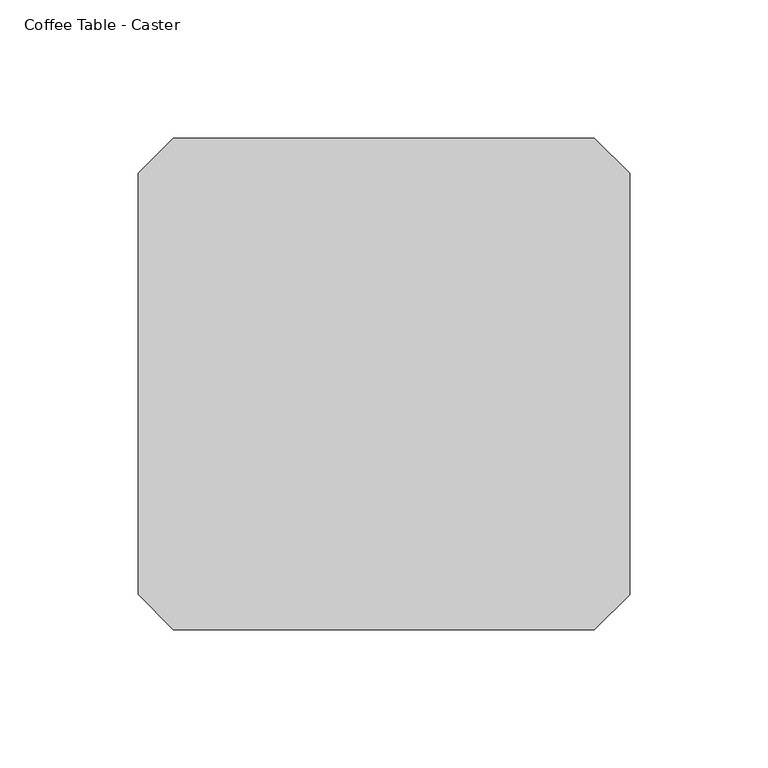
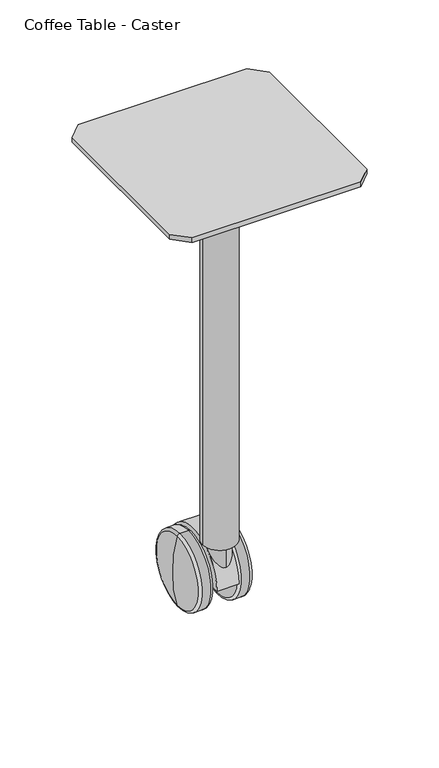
"""IFC4 building model written with IfcOpenShell, lengths in millimetres: furniture geometry, Steelcase - Groupwork - Table Leg - Coffee Table : Coffee Table - Caster."""

from ifc_helpers import new_model, si_unit, point, frame, frame_2d, origin, place, context, project, spatial, polyline, circle_curve, ellipse_curve, trimmed, segment, composite_curve, outline, extrude, source, transform, mapped, element, save
from ifc_brep_helpers import plane_surface, cylinder_surface, revolved_surface, advanced_brep


def coffee_table_caster_74038b93(model_context):
    return source(origin(), model_context, "Body", "SolidModel", [
        extrude(outline(polyline([(88.8999907, 92.0423469), (88.8999907, -60.4556951), (76.2000028, -73.0576592), (-76.2000028, -73.0576592), (-88.9000032, -60.3576588), (-88.9000032, 92.0423469), (-76.2000028, 104.7423348), (76.2000028, 104.7423348), (88.8999907, 92.0423469)])), frame((0.0, 0.0, 434.9139814), z_axis=(0.0, 0.0, 1.0), x_axis=(1.0, 0.0, 0.0)), (0.0, 0.0, 1.0), 4.5060186),
        advanced_brep(
        [(-11.4827204, 39.9411002, 2.2405885), (-11.4827204, 39.9411002, 34.996282), (-11.4827204, 39.9411002, 67.7519755), (-13.6490633, 39.9411002, 0.0742455), (-13.6490633, 39.9411002, 69.9183184), (-21.5027885, 39.9411002, 0.0742455), (-21.5027885, 39.9411002, 69.9183184), (-24.0371277, 39.9411002, 1.9932216), (-24.0371277, 39.9411002, 67.9993423), (-28.027544, 39.9411002, 34.996282)],
        [
            (0, 1),
            (1, 2),
            (2, 0, circle_curve(frame((-11.4827204, 39.9411002, 34.996282), z_axis=(1.0, 0.0, 0.0), x_axis=(0.0, 0.0, 1.0)), 32.7556935)),
            (0, 2, circle_curve(frame((-11.4827204, 39.9411002, 34.996282), z_axis=(1.0, 0.0, 0.0), x_axis=(0.0, 0.0, 1.0)), 32.7556935)),
            (3, 0, circle_curve(frame((-13.6490633, 39.9411002, 2.2405885), z_axis=(0.0, -1.0, 0.0), x_axis=(1.0, 0.0, 0.0)), 2.1663429)),
            (2, 4, circle_curve(frame((-13.6490633, 39.9411002, 67.7519755), z_axis=(0.0, -1.0, 0.0), x_axis=(1.0, 0.0, 0.0)), 2.1663429)),
            (4, 3, circle_curve(frame((-13.6490633, 39.9411002, 34.996282), z_axis=(1.0, 0.0, 0.0), x_axis=(0.0, 0.0, 1.0)), 34.9220364)),
            (3, 4, circle_curve(frame((-13.6490633, 39.9411002, 34.996282), z_axis=(1.0, 0.0, 0.0), x_axis=(0.0, 0.0, 1.0)), 34.9220364)),
            (5, 3),
            (4, 6),
            (6, 5, circle_curve(frame((-21.5027885, 39.9411002, 34.996282), z_axis=(1.0, 0.0, 0.0), x_axis=(0.0, 0.0, 1.0)), 34.9220364)),
            (5, 6, circle_curve(frame((-21.5027885, 39.9411002, 34.996282), z_axis=(1.0, 0.0, 0.0), x_axis=(0.0, 0.0, 1.0)), 34.9220364)),
            (7, 5, circle_curve(frame((-21.5027885, 39.9411002, 2.7072499), z_axis=(0.0, -1.0, 0.0), x_axis=(1.0, 0.0, 0.0)), 2.6330044)),
            (6, 8, circle_curve(frame((-21.5027885, 39.9411002, 67.285314), z_axis=(0.0, -1.0, 0.0), x_axis=(1.0, 0.0, 0.0)), 2.6330044)),
            (8, 7, circle_curve(frame((-24.0371277, 39.9411002, 34.996282), z_axis=(1.0, 0.0, 0.0), x_axis=(0.0, 0.0, 1.0)), 33.0030604)),
            (7, 8, circle_curve(frame((-24.0371277, 39.9411002, 34.996282), z_axis=(1.0, 0.0, 0.0), x_axis=(0.0, 0.0, 1.0)), 33.0030604)),
            (9, 7, circle_curve(frame((80.0645768, 39.9411002, 31.3229818), z_axis=(0.0, -1.0, 0.0), x_axis=(1.0, 0.0, 0.0)), 108.1545178)),
            (8, 9, circle_curve(frame((80.0645768, 39.9411002, 38.6695822), z_axis=(0.0, -1.0, 0.0), x_axis=(1.0, 0.0, 0.0)), 108.1545178)),
        ],
        [
            plane_surface(frame((-11.4827204, 39.9411002, 34.996282), z_axis=(1.0, 0.0, 0.0), x_axis=(0.0, 0.0, 1.0))),
            revolved_surface(trimmed(ellipse_curve(frame((-13.6490633, 39.9411002, 67.7519755), z_axis=(0.0, -1.0, 0.0), x_axis=(1.0, 0.0, 0.0)), 2.1663429, 2.1663429), [point((-11.4827204, 39.9411002, 67.7519755))], [point((-13.6490633, 39.9411002, 69.9183184))], True, "CARTESIAN"), (-26.2760059, 39.9411002, 34.996282), (-1.0, 0.0, 0.0)),
            cylinder_surface(frame((-26.2760059, 39.9411002, 34.996282), z_axis=(-1.0, 0.0, 0.0), x_axis=(0.0, 0.0, 1.0)), 34.9220364),
            revolved_surface(trimmed(ellipse_curve(frame((-21.5027885, 39.9411002, 67.285314), z_axis=(0.0, -1.0, 0.0), x_axis=(1.0, 0.0, 0.0)), 2.6330044, 2.6330044), [point((-21.5027885, 39.9411002, 69.9183184))], [point((-24.0371277, 39.9411002, 67.9993423))], True, "CARTESIAN"), (-26.2760059, 39.9411002, 34.996282), (-1.0, 0.0, 0.0)),
            revolved_surface(trimmed(ellipse_curve(frame((80.0645768, 39.9411002, 38.6695822), z_axis=(0.0, -1.0, 0.0), x_axis=(1.0, 0.0, 0.0)), 108.1545178, 108.1545178), [point((-24.0371277, 39.9411002, 67.9993423))], [point((-28.027544, 39.9411002, 34.996282))], True, "CARTESIAN"), (-26.2760059, 39.9411002, 34.996282), (-1.0, 0.0, 0.0)),
        ],
        [
            (0, [[1, 2, 3]]),
            (0, [[-2, -1, 4]]),
            (1, [[5, -3, 6, 7]]),
            (1, [[-6, -4, -5, 8]]),
            (2, [[9, -7, 10, 11]]),
            (2, [[-10, -8, -9, 12]]),
            (3, [[13, -11, 14, 15]]),
            (3, [[-14, -12, -13, 16]]),
            (4, [[17, -15, 18]]),
            (4, [[-18, -16, -17]]),
        ],
    ),
        advanced_brep(
        [(24.0371277, 39.9411002, 1.9932216), (28.027544, 39.9411002, 34.996282), (24.0371277, 39.9411002, 67.9993423), (21.5027885, 39.9411002, 0.0742455), (21.5027885, 39.9411002, 69.9183184), (13.6490633, 39.9411002, 0.0742455), (13.6490633, 39.9411002, 69.9183184), (11.4827204, 39.9411002, 2.2405885), (11.4827204, 39.9411002, 67.7519755), (11.4827204, 39.9411002, 34.996282)],
        [
            (0, 1, circle_curve(frame((-80.0645768, 39.9411002, 31.3229818), z_axis=(0.0, -1.0, 0.0), x_axis=(-1.0, 0.0, 0.0)), 108.1545178)),
            (1, 2, circle_curve(frame((-80.0645768, 39.9411002, 38.6695822), z_axis=(0.0, -1.0, 0.0), x_axis=(-1.0, 0.0, 0.0)), 108.1545178)),
            (2, 0, circle_curve(frame((24.0371277, 39.9411002, 34.996282), z_axis=(1.0, 0.0, 0.0), x_axis=(0.0, 0.0, 1.0)), 33.0030604)),
            (0, 2, circle_curve(frame((24.0371277, 39.9411002, 34.996282), z_axis=(1.0, 0.0, 0.0), x_axis=(0.0, 0.0, 1.0)), 33.0030604)),
            (3, 0, circle_curve(frame((21.5027885, 39.9411002, 2.7072499), z_axis=(0.0, -1.0, 0.0), x_axis=(-1.0, 0.0, 0.0)), 2.6330044)),
            (2, 4, circle_curve(frame((21.5027885, 39.9411002, 67.285314), z_axis=(0.0, -1.0, 0.0), x_axis=(-1.0, 0.0, 0.0)), 2.6330044)),
            (4, 3, circle_curve(frame((21.5027885, 39.9411002, 34.996282), z_axis=(1.0, 0.0, 0.0), x_axis=(0.0, 0.0, 1.0)), 34.9220364)),
            (3, 4, circle_curve(frame((21.5027885, 39.9411002, 34.996282), z_axis=(1.0, 0.0, 0.0), x_axis=(0.0, 0.0, 1.0)), 34.9220364)),
            (5, 3),
            (4, 6),
            (6, 5, circle_curve(frame((13.6490633, 39.9411002, 34.996282), z_axis=(1.0, 0.0, 0.0), x_axis=(0.0, 0.0, 1.0)), 34.9220364)),
            (5, 6, circle_curve(frame((13.6490633, 39.9411002, 34.996282), z_axis=(1.0, 0.0, 0.0), x_axis=(0.0, 0.0, 1.0)), 34.9220364)),
            (7, 5, circle_curve(frame((13.6490633, 39.9411002, 2.2405885), z_axis=(0.0, -1.0, 0.0), x_axis=(-1.0, 0.0, 0.0)), 2.1663429)),
            (6, 8, circle_curve(frame((13.6490633, 39.9411002, 67.7519755), z_axis=(0.0, -1.0, 0.0), x_axis=(-1.0, 0.0, 0.0)), 2.1663429)),
            (8, 7, circle_curve(frame((11.4827204, 39.9411002, 34.996282), z_axis=(1.0, 0.0, 0.0), x_axis=(0.0, 0.0, 1.0)), 32.7556935)),
            (7, 8, circle_curve(frame((11.4827204, 39.9411002, 34.996282), z_axis=(1.0, 0.0, 0.0), x_axis=(0.0, 0.0, 1.0)), 32.7556935)),
            (9, 7),
            (8, 9),
        ],
        [
            revolved_surface(trimmed(ellipse_curve(frame((-80.0645768, 39.9411002, 38.6695822), z_axis=(0.0, -1.0, 0.0), x_axis=(-1.0, 0.0, 0.0)), 108.1545178, 108.1545178), [point((28.027544, 39.9411002, 34.996282))], [point((24.0371277, 39.9411002, 67.9993423))], True, "CARTESIAN"), (-26.2760059, 39.9411002, 34.996282), (-1.0, 0.0, 0.0)),
            revolved_surface(trimmed(ellipse_curve(frame((21.5027885, 39.9411002, 67.285314), z_axis=(0.0, -1.0, 0.0), x_axis=(-1.0, 0.0, 0.0)), 2.6330044, 2.6330044), [point((24.0371277, 39.9411002, 67.9993423))], [point((21.5027885, 39.9411002, 69.9183184))], True, "CARTESIAN"), (-26.2760059, 39.9411002, 34.996282), (-1.0, 0.0, 0.0)),
            cylinder_surface(frame((-26.2760059, 39.9411002, 34.996282), z_axis=(-1.0, 0.0, 0.0), x_axis=(0.0, 0.0, 1.0)), 34.9220364),
            revolved_surface(trimmed(ellipse_curve(frame((13.6490633, 39.9411002, 67.7519755), z_axis=(0.0, -1.0, 0.0), x_axis=(-1.0, 0.0, 0.0)), 2.1663429, 2.1663429), [point((13.6490633, 39.9411002, 69.9183184))], [point((11.4827204, 39.9411002, 67.7519755))], True, "CARTESIAN"), (-26.2760059, 39.9411002, 34.996282), (-1.0, 0.0, 0.0)),
            plane_surface(frame((11.4827204, 39.9411002, 34.996282), z_axis=(-1.0, 0.0, 0.0), x_axis=(0.0, 0.0, 1.0))),
        ],
        [
            (0, [[1, 2, 3]]),
            (0, [[-2, -1, 4]]),
            (1, [[5, -3, 6, 7]]),
            (1, [[-6, -4, -5, 8]]),
            (2, [[9, -7, 10, 11]]),
            (2, [[-10, -8, -9, 12]]),
            (3, [[13, -11, 14, 15]]),
            (3, [[-14, -12, -13, 16]]),
            (4, [[17, -15, 18]]),
            (4, [[-18, -16, -17]]),
        ],
    ),
        extrude(outline(composite_curve([segment(polyline([(77.3811, 33.5852125), (2.3749, 33.5852125)]), True, "CONTINUOUS"), segment(trimmed(circle_curve(frame_2d((39.878, 33.5852125)), 37.5031), [point((2.3749, 33.5852125))], [point((77.3811, 33.5852125))], False, "CARTESIAN"), True, "CONTINUOUS")], self_intersect=False)), frame((-9.8317204, 0.0, 0.0), z_axis=(1.0, 0.0, 0.0), x_axis=(0.0, 1.0, 0.0)), (0.0, 0.0, 1.0), 19.685),
        advanced_brep(
        [(0.0, 25.7219599, 42.7546125), (0.0, 15.875, 42.7546125), (0.0, 6.0280401, 42.7546125), (0.0, 25.7219599, 93.5546125), (0.0, 6.0280401, 93.5546125), (0.0, 15.875, 93.5546125)],
        [
            (0, 1),
            (1, 2),
            (2, 0, circle_curve(frame((0.0, 15.875, 42.7546125), z_axis=(0.0, 0.0, -1.0), x_axis=(0.0, -1.0, 0.0)), 9.8469599)),
            (0, 2, circle_curve(frame((0.0, 15.875, 42.7546125), z_axis=(0.0, 0.0, -1.0), x_axis=(0.0, -1.0, 0.0)), 9.8469599)),
            (3, 0),
            (2, 4),
            (4, 3, circle_curve(frame((0.0, 15.875, 93.5546125), z_axis=(0.0, 0.0, -1.0), x_axis=(0.0, -1.0, 0.0)), 9.8469599)),
            (3, 4, circle_curve(frame((0.0, 15.875, 93.5546125), z_axis=(0.0, 0.0, -1.0), x_axis=(0.0, -1.0, 0.0)), 9.8469599)),
            (5, 3),
            (4, 5),
        ],
        [
            plane_surface(frame((0.0, 15.875, 42.7546125), z_axis=(0.0, 0.0, -1.0), x_axis=(0.0, -1.0, 0.0))),
            cylinder_surface(frame((0.0, 15.875, 92.8785885), z_axis=(0.0, 0.0, 1.0), x_axis=(0.0, -1.0, 0.0)), 9.8469599),
            plane_surface(frame((0.0, 15.875, 93.5546125), z_axis=(0.0, 0.0, 1.0), x_axis=(0.0, -1.0, 0.0))),
        ],
        [
            (0, [[1, 2, 3]]),
            (0, [[-2, -1, 4]]),
            (1, [[5, -3, 6, 7]]),
            (1, [[-6, -4, -5, 8]]),
            (2, [[9, -7, 10]]),
            (2, [[-10, -8, -9]]),
        ],
    ),
        extrude(outline(composite_curve([segment(trimmed(circle_curve(frame_2d((0.0, 15.7933259)), 15.24), [point((-15.24, 15.7933259))], [point((15.24, 15.7933259))], False, "CARTESIAN"), True, "CONTINUOUS"), segment(trimmed(circle_curve(frame_2d((0.0, 15.7933259)), 15.24), [point((15.24, 15.7933259))], [point((-15.24, 15.7933259))], False, "CARTESIAN"), True, "CONTINUOUS")], self_intersect=False), holes=[composite_curve([segment(trimmed(circle_curve(frame_2d((0.0, 15.7933259)), 13.7134307), [point((-13.7134307, 15.7933259))], [point((13.7134307, 15.7933259))], True, "CARTESIAN"), True, "CONTINUOUS"), segment(trimmed(circle_curve(frame_2d((0.0, 15.7933259)), 13.7134307), [point((13.7134307, 15.7933259))], [point((-13.7134307, 15.7933259))], True, "CARTESIAN"), True, "CONTINUOUS")], self_intersect=False)]), frame((0.0, 0.0, 71.6852125), z_axis=(0.0, 0.0, 1.0), x_axis=(1.0, 0.0, 0.0)), (0.0, 0.0, 1.0), 365.4487875),
    ])


if __name__ == "__main__":
    model = new_model("IFC4")
    model_context = context("Model", 3, world=origin())
    ifc_project = project(units=[si_unit("LENGTHUNIT", "METRE", prefix="MILLI")], contexts=[model_context])
    site = spatial("IfcSite", under=ifc_project)
    building = spatial("IfcBuilding", under=site)
    placement = place(None, origin())
    coffee_table_caster_shape = coffee_table_caster_74038b93(model_context)
    element("IfcFurniture", 1, ObjectType="Steelcase - Groupwork - Table Leg - Coffee Table : Coffee Table - Caster", at=placement, inside=building, context=model_context, shape_type="MappedRepresentation", body=[
        mapped(coffee_table_caster_shape, transform((0.0, 0.0, 0.0), x_axis=(1.0, 0.0, 0.0), y_axis=(0.0, 1.0, 0.0), z_axis=(0.0, 0.0, 1.0))),
    ])
    save(model, "model.ifc")
